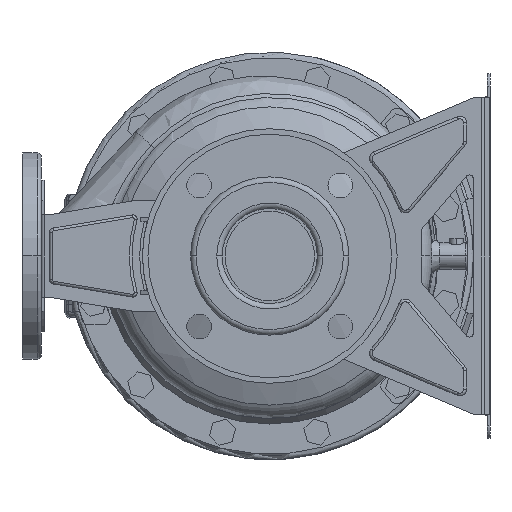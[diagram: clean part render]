
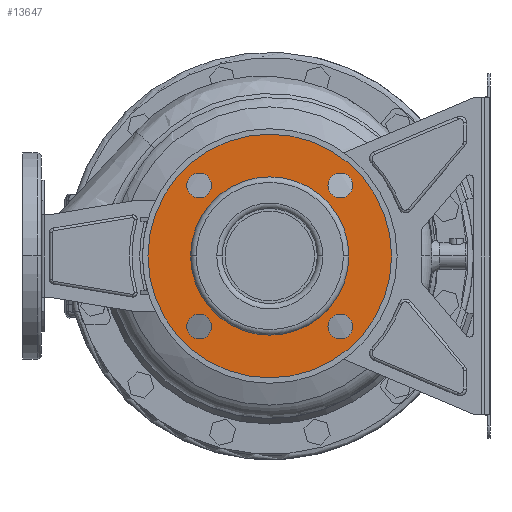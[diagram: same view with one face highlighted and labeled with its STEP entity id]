
A CAD part, front view. The second image highlights one B-rep face of the part: STEP entity #13647.
In plain terms, the highlighted planar face has unit normal (0, -1, 0).
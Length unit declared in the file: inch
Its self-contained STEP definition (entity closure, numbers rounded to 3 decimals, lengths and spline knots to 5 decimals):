
#106 = DIRECTION ( 'NONE',  ( 0., 0., 1. ) ) ;
#466 = ORIENTED_EDGE ( 'NONE', *, *, #19818, .F. ) ;
#805 = FACE_BOUND ( 'NONE', #46333, .T. ) ;
#2372 = DIRECTION ( 'NONE',  ( 0., 0., 1. ) ) ;
#2945 = DIRECTION ( 'NONE',  ( 0., -1., 0. ) ) ;
#3153 = VERTEX_POINT ( 'NONE', #76011 ) ;
#7379 = EDGE_LOOP ( 'NONE', ( #466, #159590 ) ) ;
#10121 = CARTESIAN_POINT ( 'NONE',  ( -2.01832, -8.58268, -2.01832 ) ) ;
#12608 = AXIS2_PLACEMENT_3D ( 'NONE', #154484, #43375, #77482 ) ;
#12987 = EDGE_LOOP ( 'NONE', ( #33317, #18917 ) ) ;
#13459 = EDGE_CURVE ( 'NONE', #110092, #62449, #130439, .T. ) ;
#13647 = ADVANCED_FACE ( 'NONE', ( #14553, #122515, #62450, #805, #60839, #47878 ), #23518, .F. ) ;
#14254 = CARTESIAN_POINT ( 'NONE',  ( -2.01832, -8.58268, 2.01832 ) ) ;
#14553 = FACE_OUTER_BOUND ( 'NONE', #7379, .T. ) ;
#16933 = CARTESIAN_POINT ( 'NONE',  ( 2.37265, -8.58268, 2.01832 ) ) ;
#18917 = ORIENTED_EDGE ( 'NONE', *, *, #37186, .T. ) ;
#19818 = EDGE_CURVE ( 'NONE', #37822, #33627, #144377, .T. ) ;
#20189 = CARTESIAN_POINT ( 'NONE',  ( -2.37265, -8.58268, -2.01832 ) ) ;
#22371 = EDGE_CURVE ( 'NONE', #37822, #33627, #76745, .T. ) ;
#23518 = PLANE ( 'NONE',  #127998 ) ;
#24727 = VERTEX_POINT ( 'NONE', #28705 ) ;
#25774 = AXIS2_PLACEMENT_3D ( 'NONE', #111921, #83561, #35693 ) ;
#27226 = DIRECTION ( 'NONE',  ( 0., 1., 0. ) ) ;
#28705 = CARTESIAN_POINT ( 'NONE',  ( -2.01832, -8.58268, 2.37265 ) ) ;
#28944 = ORIENTED_EDGE ( 'NONE', *, *, #57322, .T. ) ;
#33317 = ORIENTED_EDGE ( 'NONE', *, *, #74238, .T. ) ;
#33627 = VERTEX_POINT ( 'NONE', #159101 ) ;
#35693 = DIRECTION ( 'NONE',  ( 1., 0., 0. ) ) ;
#36073 = DIRECTION ( 'NONE',  ( 0., 1., 0. ) ) ;
#37186 = EDGE_CURVE ( 'NONE', #3153, #69011, #119428, .T. ) ;
#37822 = VERTEX_POINT ( 'NONE', #101649 ) ;
#39637 = EDGE_CURVE ( 'NONE', #24727, #46298, #147509, .T. ) ;
#40506 = ORIENTED_EDGE ( 'NONE', *, *, #114655, .T. ) ;
#42760 = CARTESIAN_POINT ( 'NONE',  ( 0., -8.58268, 0. ) ) ;
#43375 = DIRECTION ( 'NONE',  ( 0., 1., 0. ) ) ;
#45363 = EDGE_LOOP ( 'NONE', ( #129379, #40506 ) ) ;
#45623 = EDGE_CURVE ( 'NONE', #62449, #110092, #70597, .T. ) ;
#46298 = VERTEX_POINT ( 'NONE', #99793 ) ;
#46333 = EDGE_LOOP ( 'NONE', ( #28944, #51286 ) ) ;
#47878 = FACE_BOUND ( 'NONE', #45363, .T. ) ;
#48678 = DIRECTION ( 'NONE',  ( 0., 1., 0. ) ) ;
#50045 = DIRECTION ( 'NONE',  ( -1., 0., 0. ) ) ;
#50290 = ORIENTED_EDGE ( 'NONE', *, *, #93334, .F. ) ;
#51286 = ORIENTED_EDGE ( 'NONE', *, *, #145400, .T. ) ;
#53437 = DIRECTION ( 'NONE',  ( 0., -1., 0. ) ) ;
#53810 = CARTESIAN_POINT ( 'NONE',  ( 2.26378, -8.58268, 0. ) ) ;
#55349 = AXIS2_PLACEMENT_3D ( 'NONE', #114086, #2945, #50045 ) ;
#57322 = EDGE_CURVE ( 'NONE', #115768, #136149, #82511, .T. ) ;
#58446 = CARTESIAN_POINT ( 'NONE',  ( -2.01832, -8.58268, -2.01832 ) ) ;
#60508 = AXIS2_PLACEMENT_3D ( 'NONE', #58446, #156605, #81985 ) ;
#60839 = FACE_BOUND ( 'NONE', #84209, .T. ) ;
#62449 = VERTEX_POINT ( 'NONE', #154735 ) ;
#62450 = FACE_BOUND ( 'NONE', #12987, .T. ) ;
#63238 = DIRECTION ( 'NONE',  ( -1., 0., 0. ) ) ;
#66450 = DIRECTION ( 'NONE',  ( 0., 1., 0. ) ) ;
#68066 = VERTEX_POINT ( 'NONE', #94298 ) ;
#69011 = VERTEX_POINT ( 'NONE', #16933 ) ;
#70597 = CIRCLE ( 'NONE', #127587, 0.35433 ) ;
#70961 = CIRCLE ( 'NONE', #55349, 2.26378 ) ;
#74238 = EDGE_CURVE ( 'NONE', #69011, #3153, #160526, .T. ) ;
#76011 = CARTESIAN_POINT ( 'NONE',  ( 1.66399, -8.58268, 2.01832 ) ) ;
#76745 = CIRCLE ( 'NONE', #105215, 3.48425 ) ;
#77482 = DIRECTION ( 'NONE',  ( 0., 0., -1. ) ) ;
#77831 = CARTESIAN_POINT ( 'NONE',  ( 0., -8.58268, 0. ) ) ;
#79263 = DIRECTION ( 'NONE',  ( 0., 1., 0. ) ) ;
#79915 = ORIENTED_EDGE ( 'NONE', *, *, #13459, .T. ) ;
#80577 = CIRCLE ( 'NONE', #122061, 0.35433 ) ;
#81985 = DIRECTION ( 'NONE',  ( -1., 0., 0. ) ) ;
#82511 = CIRCLE ( 'NONE', #12608, 0.35433 ) ;
#83284 = AXIS2_PLACEMENT_3D ( 'NONE', #141031, #137850, #2372 ) ;
#83561 = DIRECTION ( 'NONE',  ( 0., 1., 0. ) ) ;
#84209 = EDGE_LOOP ( 'NONE', ( #79915, #120100 ) ) ;
#86080 = DIRECTION ( 'NONE',  ( 0., 1., 0. ) ) ;
#89674 = DIRECTION ( 'NONE',  ( 0., 0., -1. ) ) ;
#90481 = CARTESIAN_POINT ( 'NONE',  ( -2.01832, -8.58268, 2.01832 ) ) ;
#92144 = ORIENTED_EDGE ( 'NONE', *, *, #152318, .T. ) ;
#93334 = EDGE_CURVE ( 'NONE', #68066, #147894, #70961, .T. ) ;
#94298 = CARTESIAN_POINT ( 'NONE',  ( -2.26378, -8.58268, 0. ) ) ;
#96872 = DIRECTION ( 'NONE',  ( 1., 0., 0. ) ) ;
#99793 = CARTESIAN_POINT ( 'NONE',  ( -2.01832, -8.58268, 1.66399 ) ) ;
#101329 = AXIS2_PLACEMENT_3D ( 'NONE', #102894, #118284, #154777 ) ;
#101430 = CIRCLE ( 'NONE', #83284, 0.35433 ) ;
#101649 = CARTESIAN_POINT ( 'NONE',  ( -3.48425, -8.58268, 0. ) ) ;
#102891 = DIRECTION ( 'NONE',  ( -1., 0., 0. ) ) ;
#102894 = CARTESIAN_POINT ( 'NONE',  ( 2.01832, -8.58268, 2.01832 ) ) ;
#105215 = AXIS2_PLACEMENT_3D ( 'NONE', #139434, #53437, #102891 ) ;
#106021 = AXIS2_PLACEMENT_3D ( 'NONE', #90481, #86080, #106 ) ;
#110092 = VERTEX_POINT ( 'NONE', #20189 ) ;
#111921 = CARTESIAN_POINT ( 'NONE',  ( 2.01832, -8.58268, 2.01832 ) ) ;
#112458 = CIRCLE ( 'NONE', #114996, 2.26378 ) ;
#113657 = CARTESIAN_POINT ( 'NONE',  ( 2.01832, -8.58268, -2.37265 ) ) ;
#114086 = CARTESIAN_POINT ( 'NONE',  ( 0., -8.58268, 0. ) ) ;
#114655 = EDGE_CURVE ( 'NONE', #46298, #24727, #80577, .T. ) ;
#114996 = AXIS2_PLACEMENT_3D ( 'NONE', #77831, #66450, #128107 ) ;
#115768 = VERTEX_POINT ( 'NONE', #113657 ) ;
#118170 = DIRECTION ( 'NONE',  ( -1., 0., 0. ) ) ;
#118284 = DIRECTION ( 'NONE',  ( 0., 1., 0. ) ) ;
#119428 = CIRCLE ( 'NONE', #101329, 0.35433 ) ;
#120100 = ORIENTED_EDGE ( 'NONE', *, *, #45623, .T. ) ;
#122061 = AXIS2_PLACEMENT_3D ( 'NONE', #14254, #27226, #89674 ) ;
#122515 = FACE_BOUND ( 'NONE', #151792, .T. ) ;
#124448 = CARTESIAN_POINT ( 'NONE',  ( 2.01832, -8.58268, -1.66399 ) ) ;
#127587 = AXIS2_PLACEMENT_3D ( 'NONE', #10121, #36073, #96872 ) ;
#127998 = AXIS2_PLACEMENT_3D ( 'NONE', #148441, #48678, #63238 ) ;
#128107 = DIRECTION ( 'NONE',  ( -1., 0., 0. ) ) ;
#129379 = ORIENTED_EDGE ( 'NONE', *, *, #39637, .T. ) ;
#130439 = CIRCLE ( 'NONE', #60508, 0.35433 ) ;
#136149 = VERTEX_POINT ( 'NONE', #124448 ) ;
#137850 = DIRECTION ( 'NONE',  ( 0., 1., 0. ) ) ;
#139434 = CARTESIAN_POINT ( 'NONE',  ( 0., -8.58268, 0. ) ) ;
#141031 = CARTESIAN_POINT ( 'NONE',  ( 2.01832, -8.58268, -2.01832 ) ) ;
#144377 = CIRCLE ( 'NONE', #157333, 3.48425 ) ;
#145400 = EDGE_CURVE ( 'NONE', #136149, #115768, #101430, .T. ) ;
#147509 = CIRCLE ( 'NONE', #106021, 0.35433 ) ;
#147894 = VERTEX_POINT ( 'NONE', #53810 ) ;
#148441 = CARTESIAN_POINT ( 'NONE',  ( 0., -8.58268, 0. ) ) ;
#151792 = EDGE_LOOP ( 'NONE', ( #50290, #92144 ) ) ;
#152318 = EDGE_CURVE ( 'NONE', #68066, #147894, #112458, .T. ) ;
#154484 = CARTESIAN_POINT ( 'NONE',  ( 2.01832, -8.58268, -2.01832 ) ) ;
#154735 = CARTESIAN_POINT ( 'NONE',  ( -1.66399, -8.58268, -2.01832 ) ) ;
#154777 = DIRECTION ( 'NONE',  ( -1., 0., 0. ) ) ;
#156605 = DIRECTION ( 'NONE',  ( 0., 1., 0. ) ) ;
#157333 = AXIS2_PLACEMENT_3D ( 'NONE', #42760, #79263, #118170 ) ;
#159101 = CARTESIAN_POINT ( 'NONE',  ( 3.48425, -8.58268, 0. ) ) ;
#159590 = ORIENTED_EDGE ( 'NONE', *, *, #22371, .T. ) ;
#160526 = CIRCLE ( 'NONE', #25774, 0.35433 ) ;
